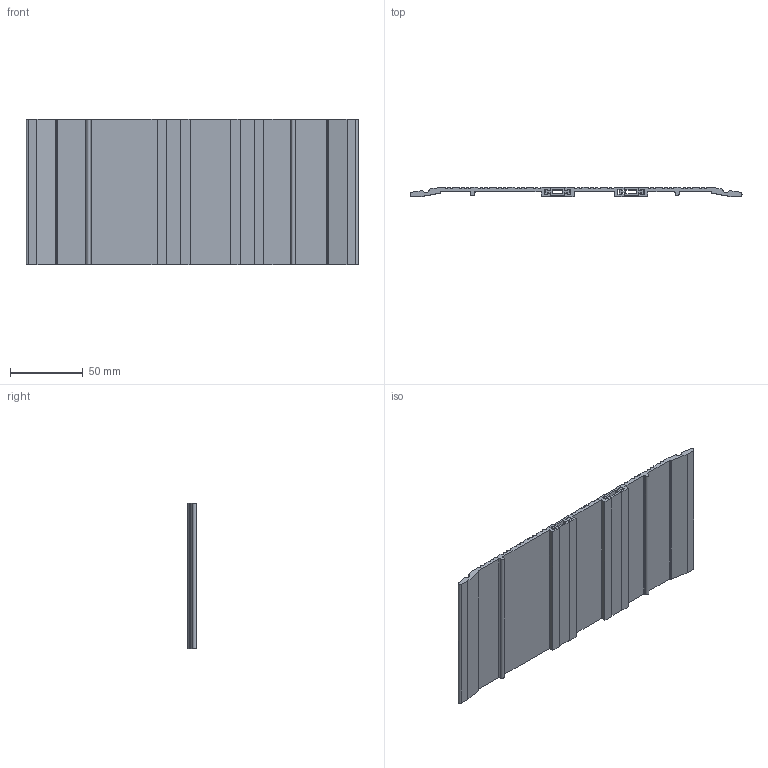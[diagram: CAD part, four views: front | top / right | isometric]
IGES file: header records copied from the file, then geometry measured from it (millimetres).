
Global section: file name: No Iges File Name specified; native system: Autodesk Inventor 2012; preprocessor: AutoDesk Inventor Iges Exporter R2012; author: anna.b; date: 20170316.140812; units: millimetre
Bounding box: 228.6 x 6.35 x 100 mm (x, y, z)
Volume: 74692.5 mm3; surface area: 69808.3 mm2
Topology: 5 solids, 5 shells, 263 faces, 759 edges, 506 vertices
Faces by surface type: plane 157, cylinder 65, revolution 41
